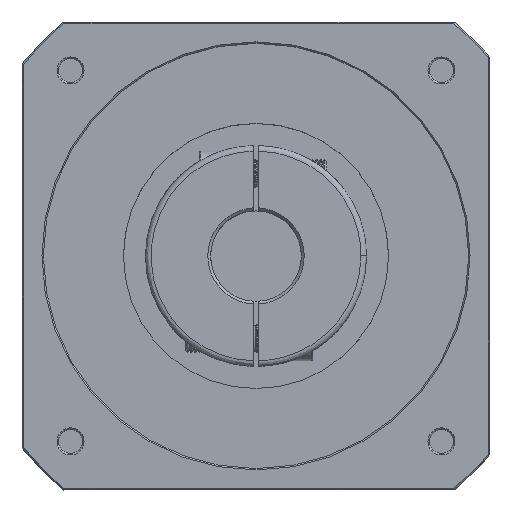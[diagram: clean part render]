
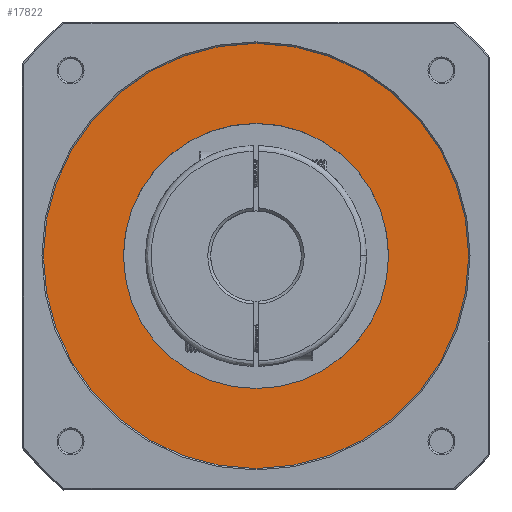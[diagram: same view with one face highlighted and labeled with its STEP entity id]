
A CAD part, top view. The second image highlights one B-rep face of the part: STEP entity #17822.
In plain terms, the highlighted planar face has unit normal (0, 0, -1).
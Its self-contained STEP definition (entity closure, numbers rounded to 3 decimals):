
#235 = CARTESIAN_POINT ( 'NONE',  ( 0., 0., 157.5 ) ) ;
#655 = CIRCLE ( 'NONE', #85750, 75. ) ;
#1592 = DIRECTION ( 'NONE',  ( 1., 0., 0. ) ) ;
#5750 = DIRECTION ( 'NONE',  ( 1., 0., 0. ) ) ;
#7160 = DIRECTION ( 'NONE',  ( -1., 0., 0. ) ) ;
#11179 = AXIS2_PLACEMENT_3D ( 'NONE', #87964, #46934, #5750 ) ;
#16535 = EDGE_CURVE ( 'NONE', #32569, #55763, #28806, .T. ) ;
#17822 = ADVANCED_FACE ( 'NONE', ( #21069, #39358 ), #67041, .F. ) ;
#20116 = DIRECTION ( 'NONE',  ( 0., 0., -1. ) ) ;
#20973 = CARTESIAN_POINT ( 'NONE',  ( -46.75, 0., 157.5 ) ) ;
#21069 = FACE_BOUND ( 'NONE', #63429, .T. ) ;
#23372 = ORIENTED_EDGE ( 'NONE', *, *, #16535, .T. ) ;
#24069 = CARTESIAN_POINT ( 'NONE',  ( 0., 0., 157.5 ) ) ;
#28806 = CIRCLE ( 'NONE', #48372, 75. ) ;
#30937 = DIRECTION ( 'NONE',  ( -1., 0., 0. ) ) ;
#32569 = VERTEX_POINT ( 'NONE', #56043 ) ;
#39358 = FACE_OUTER_BOUND ( 'NONE', #53012, .T. ) ;
#42760 = DIRECTION ( 'NONE',  ( 0., 0., -1. ) ) ;
#43013 = EDGE_CURVE ( 'NONE', #59211, #84108, #43896, .T. ) ;
#43187 = EDGE_CURVE ( 'NONE', #55763, #32569, #655, .T. ) ;
#43896 = CIRCLE ( 'NONE', #87456, 46.75 ) ;
#46934 = DIRECTION ( 'NONE',  ( 0., 0., 1. ) ) ;
#48320 = DIRECTION ( 'NONE',  ( 0., 0., 1. ) ) ;
#48372 = AXIS2_PLACEMENT_3D ( 'NONE', #83826, #42760, #1592 ) ;
#50809 = ORIENTED_EDGE ( 'NONE', *, *, #77282, .T. ) ;
#53012 = EDGE_LOOP ( 'NONE', ( #23372, #80131 ) ) ;
#55763 = VERTEX_POINT ( 'NONE', #84764 ) ;
#56043 = CARTESIAN_POINT ( 'NONE',  ( 75., 0., 157.5 ) ) ;
#59211 = VERTEX_POINT ( 'NONE', #20973 ) ;
#61336 = CARTESIAN_POINT ( 'NONE',  ( 0., 0., 157.5 ) ) ;
#63429 = EDGE_LOOP ( 'NONE', ( #65644, #50809 ) ) ;
#65644 = ORIENTED_EDGE ( 'NONE', *, *, #43013, .T. ) ;
#67041 = PLANE ( 'NONE',  #11179 ) ;
#68194 = DIRECTION ( 'NONE',  ( 1., 0., 0. ) ) ;
#72120 = DIRECTION ( 'NONE',  ( 0., 0., 1. ) ) ;
#77282 = EDGE_CURVE ( 'NONE', #84108, #59211, #82733, .T. ) ;
#80131 = ORIENTED_EDGE ( 'NONE', *, *, #43187, .T. ) ;
#82733 = CIRCLE ( 'NONE', #83998, 46.75 ) ;
#83826 = CARTESIAN_POINT ( 'NONE',  ( 0., 0., 157.5 ) ) ;
#83998 = AXIS2_PLACEMENT_3D ( 'NONE', #235, #48320, #7160 ) ;
#84108 = VERTEX_POINT ( 'NONE', #88350 ) ;
#84764 = CARTESIAN_POINT ( 'NONE',  ( -75., 0., 157.5 ) ) ;
#85750 = AXIS2_PLACEMENT_3D ( 'NONE', #61336, #20116, #68194 ) ;
#87456 = AXIS2_PLACEMENT_3D ( 'NONE', #24069, #72120, #30937 ) ;
#87964 = CARTESIAN_POINT ( 'NONE',  ( -75.9, -75.9, 157.5 ) ) ;
#88350 = CARTESIAN_POINT ( 'NONE',  ( 46.75, 0., 157.5 ) ) ;
